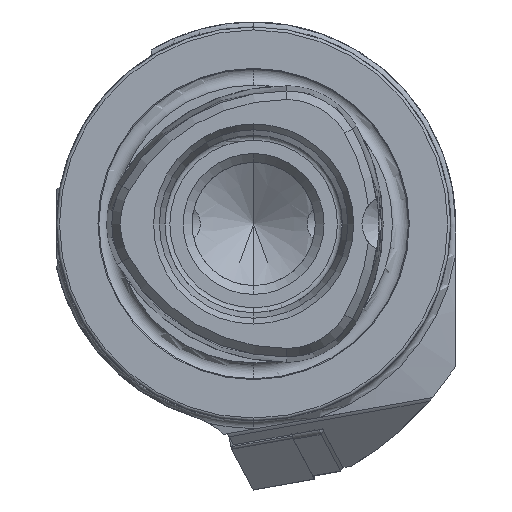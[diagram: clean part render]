
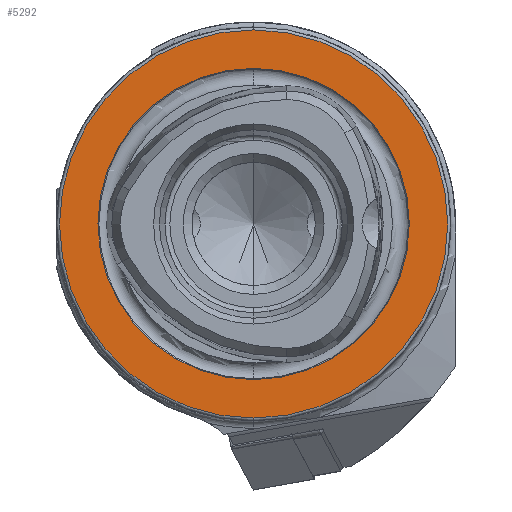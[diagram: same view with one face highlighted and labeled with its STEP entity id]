
A CAD part, left-side view. The second image highlights one B-rep face of the part: STEP entity #5292.
In plain terms, the highlighted planar face has unit normal (-1, 0, 0).
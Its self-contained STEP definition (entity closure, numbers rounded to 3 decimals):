
#136 = DIRECTION ( 'NONE',  ( -1., 0., 0. ) ) ;
#343 = VERTEX_POINT ( 'NONE', #10872 ) ;
#897 = CARTESIAN_POINT ( 'NONE',  ( 0., 0., -15.8 ) ) ;
#1404 = PLANE ( 'NONE',  #11220 ) ;
#1780 = CARTESIAN_POINT ( 'NONE',  ( 0., 0., 15.8 ) ) ;
#2024 = EDGE_LOOP ( 'NONE', ( #11872, #4411 ) ) ;
#2212 = ORIENTED_EDGE ( 'NONE', *, *, #5754, .F. ) ;
#2333 = CARTESIAN_POINT ( 'NONE',  ( 0., 0., -19.7 ) ) ;
#2645 = DIRECTION ( 'NONE',  ( 1., 0., 0. ) ) ;
#2700 = FACE_OUTER_BOUND ( 'NONE', #2024, .T. ) ;
#3100 = CARTESIAN_POINT ( 'NONE',  ( 0., 0., 0. ) ) ;
#3775 = DIRECTION ( 'NONE',  ( 0., 0., 1. ) ) ;
#4411 = ORIENTED_EDGE ( 'NONE', *, *, #13470, .T. ) ;
#5292 = ADVANCED_FACE ( 'NONE', ( #12125, #2700 ), #1404, .F. ) ;
#5309 = CIRCLE ( 'NONE', #6592, 19.7 ) ;
#5372 = EDGE_LOOP ( 'NONE', ( #11637, #2212 ) ) ;
#5683 = VERTEX_POINT ( 'NONE', #2333 ) ;
#5754 = EDGE_CURVE ( 'NONE', #7280, #9210, #10631, .T. ) ;
#5916 = AXIS2_PLACEMENT_3D ( 'NONE', #8076, #8366, #8459 ) ;
#5990 = CARTESIAN_POINT ( 'NONE',  ( 0., 0., 0. ) ) ;
#6185 = CIRCLE ( 'NONE', #10611, 19.7 ) ;
#6592 = AXIS2_PLACEMENT_3D ( 'NONE', #14344, #7249, #3775 ) ;
#7191 = DIRECTION ( 'NONE',  ( 0., 0., -1. ) ) ;
#7249 = DIRECTION ( 'NONE',  ( -1., 0., 0. ) ) ;
#7280 = VERTEX_POINT ( 'NONE', #897 ) ;
#8076 = CARTESIAN_POINT ( 'NONE',  ( 0., 0., 0. ) ) ;
#8366 = DIRECTION ( 'NONE',  ( -1., 0., 0. ) ) ;
#8459 = DIRECTION ( 'NONE',  ( 0., 0., 1. ) ) ;
#9210 = VERTEX_POINT ( 'NONE', #1780 ) ;
#9756 = CARTESIAN_POINT ( 'NONE',  ( 0., 15.8, 0. ) ) ;
#9757 = CIRCLE ( 'NONE', #5916, 15.8 ) ;
#10611 = AXIS2_PLACEMENT_3D ( 'NONE', #3100, #11537, #13686 ) ;
#10631 = CIRCLE ( 'NONE', #12369, 15.8 ) ;
#10872 = CARTESIAN_POINT ( 'NONE',  ( 0., 0., 19.7 ) ) ;
#11220 = AXIS2_PLACEMENT_3D ( 'NONE', #9756, #2645, #7191 ) ;
#11225 = EDGE_CURVE ( 'NONE', #9210, #7280, #9757, .T. ) ;
#11537 = DIRECTION ( 'NONE',  ( -1., 0., 0. ) ) ;
#11568 = EDGE_CURVE ( 'NONE', #343, #5683, #5309, .T. ) ;
#11637 = ORIENTED_EDGE ( 'NONE', *, *, #11225, .F. ) ;
#11784 = DIRECTION ( 'NONE',  ( 0., 0., 1. ) ) ;
#11872 = ORIENTED_EDGE ( 'NONE', *, *, #11568, .T. ) ;
#12125 = FACE_BOUND ( 'NONE', #5372, .T. ) ;
#12369 = AXIS2_PLACEMENT_3D ( 'NONE', #5990, #136, #11784 ) ;
#13470 = EDGE_CURVE ( 'NONE', #5683, #343, #6185, .T. ) ;
#13686 = DIRECTION ( 'NONE',  ( 0., 0., 1. ) ) ;
#14344 = CARTESIAN_POINT ( 'NONE',  ( 0., 0., 0. ) ) ;
